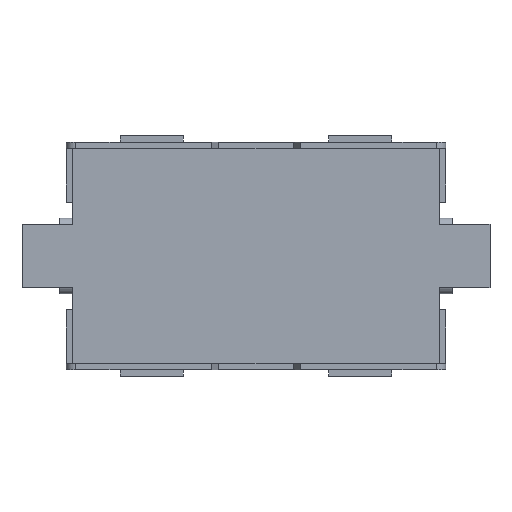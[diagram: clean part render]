
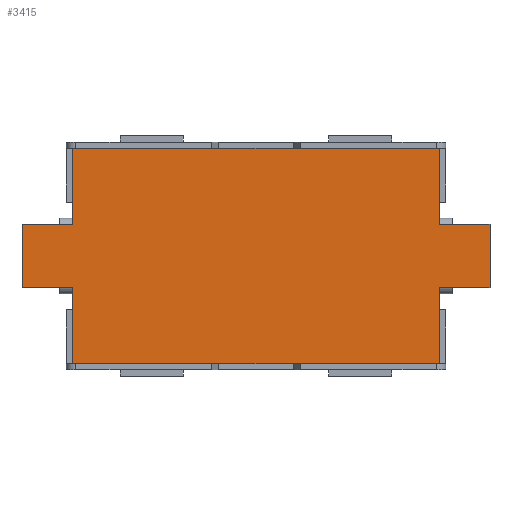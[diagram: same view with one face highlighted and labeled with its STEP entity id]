
A CAD part, front view. The second image highlights one B-rep face of the part: STEP entity #3415.
In plain terms, the highlighted planar face has unit normal (0, -1, 0).
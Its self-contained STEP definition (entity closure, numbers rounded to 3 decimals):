
#1=DIRECTION('',(0.,0.,-1.));
#2=VECTOR('',#1,1.2);
#3=CARTESIAN_POINT('',(-2.9,0.,-0.5));
#4=LINE('',#3,#2);
#15=DIRECTION('',(0.,0.,-1.));
#16=VECTOR('',#15,1.2);
#17=CARTESIAN_POINT('',(-2.9,0.,1.7));
#18=LINE('',#17,#16);
#28=DIRECTION('',(1.,0.,0.));
#29=VECTOR('',#28,5.8);
#30=CARTESIAN_POINT('',(-2.9,0.,-1.7));
#31=LINE('',#30,#29);
#228=DIRECTION('',(0.,0.,1.));
#229=VECTOR('',#228,1.2);
#230=CARTESIAN_POINT('',(2.9,0.,-1.7));
#231=LINE('',#230,#229);
#232=DIRECTION('',(0.,0.,1.));
#233=VECTOR('',#232,1.2);
#234=CARTESIAN_POINT('',(2.9,0.,0.5));
#235=LINE('',#234,#233);
#286=DIRECTION('',(1.,0.,0.));
#287=VECTOR('',#286,0.8);
#288=CARTESIAN_POINT('',(2.9,0.,-0.5));
#289=LINE('',#288,#287);
#294=DIRECTION('',(0.,0.,1.));
#295=VECTOR('',#294,1.);
#296=CARTESIAN_POINT('',(3.7,0.,-0.5));
#297=LINE('',#296,#295);
#302=DIRECTION('',(-1.,0.,0.));
#303=VECTOR('',#302,0.8);
#304=CARTESIAN_POINT('',(3.7,0.,0.5));
#305=LINE('',#304,#303);
#339=DIRECTION('',(-1.,0.,0.));
#340=VECTOR('',#339,5.8);
#341=CARTESIAN_POINT('',(2.9,0.,1.7));
#342=LINE('',#341,#340);
#2537=DIRECTION('',(-1.,0.,0.));
#2538=VECTOR('',#2537,0.8);
#2539=CARTESIAN_POINT('',(-2.9,0.,0.5));
#2540=LINE('',#2539,#2538);
#2549=DIRECTION('',(0.,0.,-1.));
#2550=VECTOR('',#2549,1.);
#2551=CARTESIAN_POINT('',(-3.7,0.,0.5));
#2552=LINE('',#2551,#2550);
#2561=DIRECTION('',(1.,0.,0.));
#2562=VECTOR('',#2561,0.8);
#2563=CARTESIAN_POINT('',(-3.7,0.,-0.5));
#2564=LINE('',#2563,#2562);
#2581=CARTESIAN_POINT('',(-2.9,0.,-0.5));
#2582=CARTESIAN_POINT('',(-2.9,0.,-1.7));
#2583=VERTEX_POINT('',#2581);
#2584=VERTEX_POINT('',#2582);
#2585=CARTESIAN_POINT('',(-3.7,0.,-0.5));
#2586=VERTEX_POINT('',#2585);
#2587=CARTESIAN_POINT('',(-3.7,0.,0.5));
#2588=VERTEX_POINT('',#2587);
#2589=CARTESIAN_POINT('',(-2.9,0.,0.5));
#2590=VERTEX_POINT('',#2589);
#2591=CARTESIAN_POINT('',(-2.9,0.,1.7));
#2592=VERTEX_POINT('',#2591);
#2593=CARTESIAN_POINT('',(2.9,0.,1.7));
#2594=VERTEX_POINT('',#2593);
#2595=CARTESIAN_POINT('',(2.9,0.,0.5));
#2596=VERTEX_POINT('',#2595);
#2597=CARTESIAN_POINT('',(3.7,0.,0.5));
#2598=VERTEX_POINT('',#2597);
#2599=CARTESIAN_POINT('',(3.7,0.,-0.5));
#2600=VERTEX_POINT('',#2599);
#2601=CARTESIAN_POINT('',(2.9,0.,-0.5));
#2602=VERTEX_POINT('',#2601);
#2603=CARTESIAN_POINT('',(2.9,0.,-1.7));
#2604=VERTEX_POINT('',#2603);
#3384=CARTESIAN_POINT('',(0.,0.,0.));
#3385=DIRECTION('',(0.,1.,0.));
#3386=DIRECTION('',(1.,0.,0.));
#3387=AXIS2_PLACEMENT_3D('',#3384,#3385,#3386);
#3388=PLANE('',#3387);
#3390=ORIENTED_EDGE('',*,*,#3389,.F.);
#3392=ORIENTED_EDGE('',*,*,#3391,.F.);
#3394=ORIENTED_EDGE('',*,*,#3393,.F.);
#3396=ORIENTED_EDGE('',*,*,#3395,.F.);
#3398=ORIENTED_EDGE('',*,*,#3397,.F.);
#3400=ORIENTED_EDGE('',*,*,#3399,.F.);
#3402=ORIENTED_EDGE('',*,*,#3401,.F.);
#3404=ORIENTED_EDGE('',*,*,#3403,.F.);
#3406=ORIENTED_EDGE('',*,*,#3405,.F.);
#3408=ORIENTED_EDGE('',*,*,#3407,.F.);
#3410=ORIENTED_EDGE('',*,*,#3409,.F.);
#3412=ORIENTED_EDGE('',*,*,#3411,.F.);
#3413=EDGE_LOOP('',(#3390,#3392,#3394,#3396,#3398,#3400,#3402,#3404,#3406,#3408,
#3410,#3412));
#3414=FACE_OUTER_BOUND('',#3413,.F.);
#3389=EDGE_CURVE('',#2583,#2584,#4,.T.);
#3391=EDGE_CURVE('',#2586,#2583,#2564,.T.);
#3393=EDGE_CURVE('',#2588,#2586,#2552,.T.);
#3395=EDGE_CURVE('',#2590,#2588,#2540,.T.);
#3397=EDGE_CURVE('',#2592,#2590,#18,.T.);
#3399=EDGE_CURVE('',#2594,#2592,#342,.T.);
#3401=EDGE_CURVE('',#2596,#2594,#235,.T.);
#3403=EDGE_CURVE('',#2598,#2596,#305,.T.);
#3405=EDGE_CURVE('',#2600,#2598,#297,.T.);
#3407=EDGE_CURVE('',#2602,#2600,#289,.T.);
#3409=EDGE_CURVE('',#2604,#2602,#231,.T.);
#3411=EDGE_CURVE('',#2584,#2604,#31,.T.);
#3415=ADVANCED_FACE('',(#3414),#3388,.F.);
